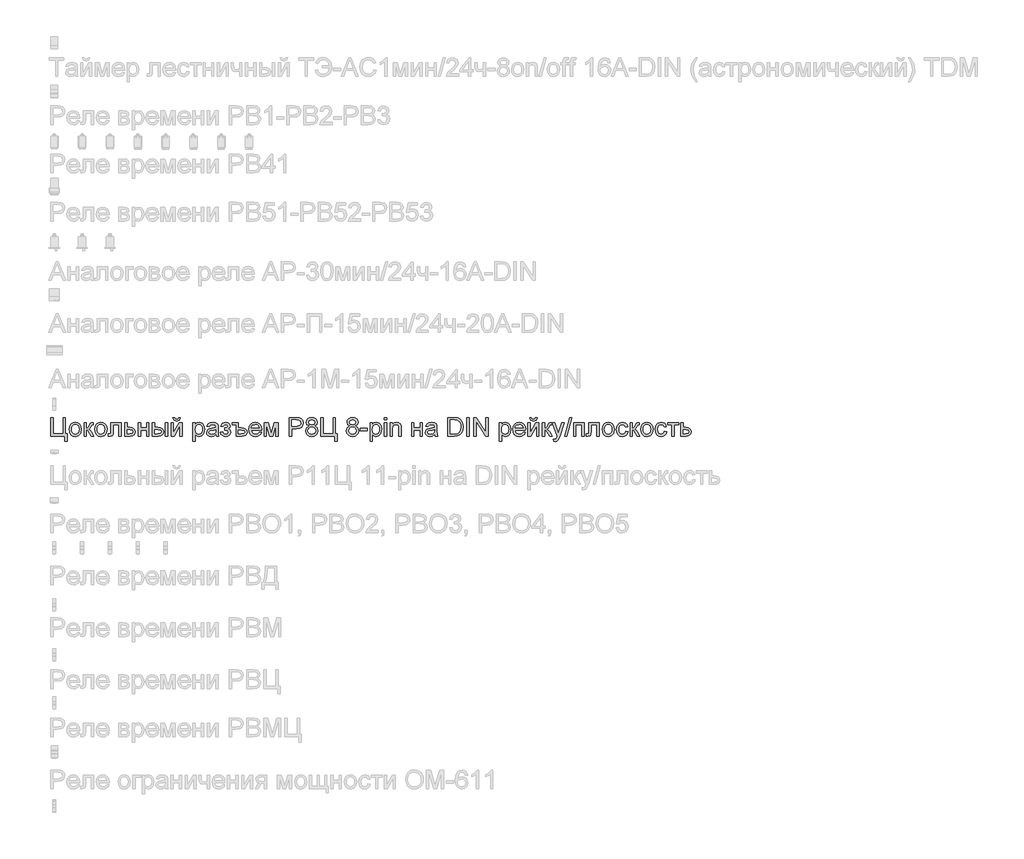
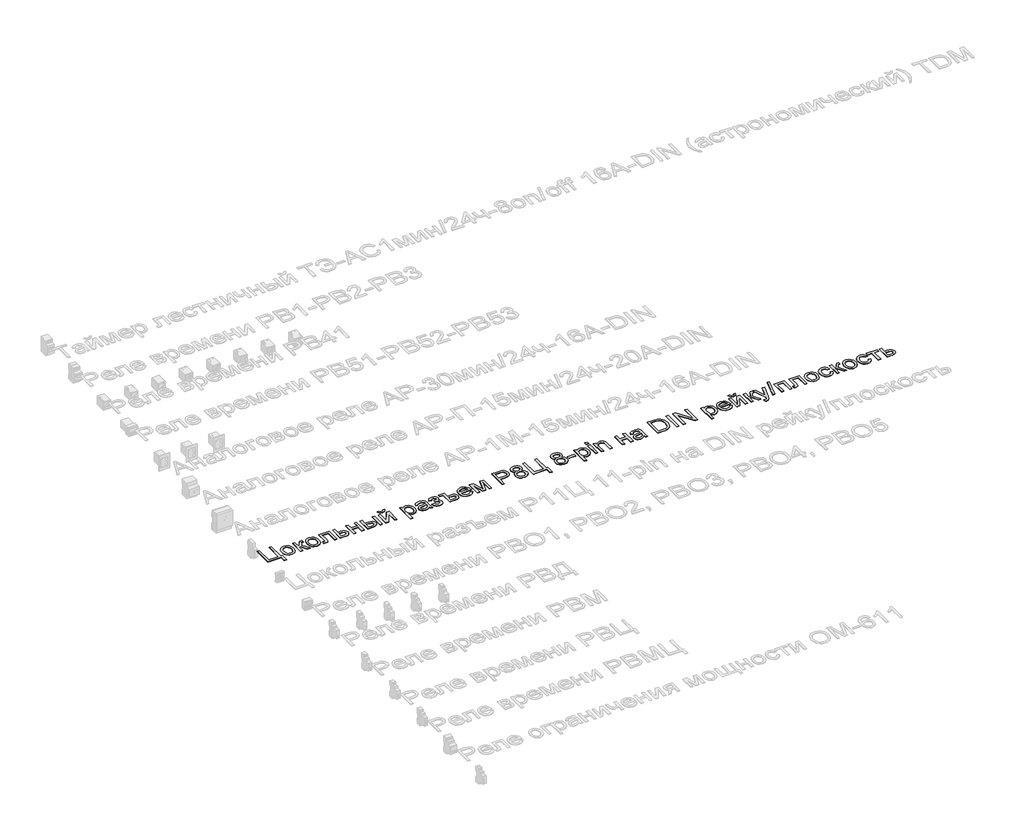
# One storey, part 26 of 34: 1 proxy.
"""IFC4 building model written with IfcOpenShell, lengths in millimetres."""

from ifc_helpers import new_model, si_unit, frame, origin, place, context, project, spatial, polyline, outline, extrude, element, save

model = new_model("IFC4")

# Units and contexts
model_context = context("Model", 3, world=origin())
ifc_project = project(units=[si_unit("LENGTHUNIT", "METRE", prefix="MILLI")], contexts=[model_context])

# Site, building, storey
site = spatial("IfcSite", under=ifc_project)
building = spatial("IfcBuilding", under=site)
storey = spatial("IfcBuildingStorey", under=building, Name="Этаж 01", Elevation=0.0)

# Proxy
placement = place(None, origin())
element("IfcBuildingElementProxy", 1, Name="Надпись на модели 1", ObjectType="Надпись на модели 1", at=placement, inside=storey, context=model_context, shape_type="SweptSolid", body=[
    extrude(outline(polyline([(-19039.0125911, 15216.6915941), (-19026.4555523, 15216.6915941), (-19026.4555523, 15128.7923228), (-18973.0881375, 15128.7923228), (-18973.0881375, 15216.6915941), (-18960.5310988, 15216.6915941), (-18960.5310988, 15128.7923228), (-18951.1133197, 15128.7923228), (-18951.1133197, 15087.9819468), (-18963.6703585, 15087.9819468), (-18963.6703585, 15116.235284), (-19039.0125911, 15116.235284), (-19039.0125911, 15216.6915941)])), frame((0.0, 0.0, 40.0), z_axis=(0.0, 0.0, 1.0), x_axis=(1.0, 0.0, 0.0)), (0.0, 0.0, 1.0), 2.0),
    extrude(outline(polyline([(-18940.1259108, 15153.1215854), (-18937.4097154, 15170.9086798), (-18929.2611292, 15183.4105363), (-18919.1934252, 15189.5357715), (-18907.1391585, 15191.5775166), (-18893.9475233, 15189.0912475), (-18883.4107699, 15181.63244), (-18876.5037854, 15169.7897054), (-18874.2014572, 15154.151655), (-18878.2726847, 15131.8089551), (-18890.1307476, 15119.1660772), (-18907.1391585, 15114.6656541), (-18920.4902093, 15117.1427262), (-18931.0147, 15124.5739426), (-18937.8481081, 15136.6649975), (-18940.1259108, 15153.1215854)]), holes=[polyline([(-18927.568872, 15153.1461108), (-18926.1157381, 15141.7816229), (-18921.7563365, 15133.6851533), (-18915.1957742, 15128.838308), (-18907.1391585, 15127.2226929), (-18899.119331, 15128.8475051), (-18892.5710315, 15133.7219415), (-18888.2116299, 15141.92571), (-18886.758496, 15153.5385183), (-18888.2208269, 15164.5719125), (-18892.6078197, 15172.5580175), (-18899.1653163, 15177.4048627), (-18907.1391585, 15179.0204778), (-18915.1957742, 15177.4109941), (-18921.7563365, 15172.5825429), (-18926.1157381, 15164.5044674), (-18927.568872, 15153.1461108)])]), frame((0.0, 0.0, 40.0), z_axis=(0.0, 0.0, 1.0), x_axis=(1.0, 0.0, 0.0)), (0.0, 0.0, 1.0), 2.0),
    extrude(outline(polyline([(-18860.0747886, 15190.0078868), (-18847.5177499, 15190.0078868), (-18847.5177499, 15158.6152898), (-18839.1055149, 15160.8716327), (-18832.2138589, 15174.0172827), (-18826.4871625, 15185.3603109), (-18821.4349164, 15189.0513936), (-18812.2501293, 15190.0078868), (-18809.8466335, 15190.0078868), (-18809.8466335, 15177.3772716), (-18813.2311479, 15177.450848), (-18819.3625145, 15176.1264728), (-18823.6789966, 15167.8613906), (-18828.7435054, 15158.9218582), (-18835.8436279, 15154.5440624), (-18827.9219022, 15149.6573633), (-18820.1473294, 15139.3627988), (-18806.7073739, 15116.235284), (-18820.9811953, 15116.235284), (-18834.1513707, 15138.8722894), (-18840.7732466, 15148.449484), (-18847.5177499, 15150.7671406), (-18847.5177499, 15116.235284), (-18860.0747886, 15116.235284), (-18860.0747886, 15190.0078868)])), frame((0.0, 0.0, 40.0), z_axis=(0.0, 0.0, 1.0), x_axis=(1.0, 0.0, 0.0)), (0.0, 0.0, 1.0), 2.0),
    extrude(outline(polyline([(-18801.9984843, 15153.1215854), (-18799.2822889, 15170.9086798), (-18791.1337027, 15183.4105363), (-18781.0659988, 15189.5357715), (-18769.0117321, 15191.5775166), (-18755.8200969, 15189.0912475), (-18745.2833434, 15181.63244), (-18738.3763589, 15169.7897054), (-18736.0740308, 15154.151655), (-18740.1452582, 15131.8089551), (-18752.0033212, 15119.1660772), (-18769.0117321, 15114.6656541), (-18782.3627828, 15117.1427262), (-18792.8872736, 15124.5739426), (-18799.7206816, 15136.6649975), (-18801.9984843, 15153.1215854)]), holes=[polyline([(-18789.4414455, 15153.1461108), (-18787.9883117, 15141.7816229), (-18783.62891, 15133.6851533), (-18777.0683478, 15128.838308), (-18769.0117321, 15127.2226929), (-18760.9919046, 15128.8475051), (-18754.4436051, 15133.7219415), (-18750.0842034, 15141.92571), (-18748.6310696, 15153.5385183), (-18750.0934005, 15164.5719125), (-18754.4803933, 15172.5580175), (-18761.0378898, 15177.4048627), (-18769.0117321, 15179.0204778), (-18777.0683478, 15177.4109941), (-18783.62891, 15172.5825429), (-18787.9883117, 15164.5044674), (-18789.4414455, 15153.1461108)])]), frame((0.0, 0.0, 40.0), z_axis=(0.0, 0.0, 1.0), x_axis=(1.0, 0.0, 0.0)), (0.0, 0.0, 1.0), 2.0),
    extrude(outline(polyline([(-18715.6688428, 15190.0078868), (-18659.1621683, 15190.0078868), (-18659.1621683, 15116.3088604), (-18671.7192071, 15116.3088604), (-18671.7192071, 15177.450848), (-18703.111804, 15177.450848), (-18703.111804, 15142.2568038), (-18703.9579326, 15126.0209451), (-18708.6055085, 15119.1660772), (-18719.5929174, 15116.235284), (-18729.7955114, 15116.8729461), (-18729.7955114, 15128.7923228), (-18724.1791796, 15128.7923228), (-18718.5015341, 15129.564875), (-18716.2329285, 15132.0174216), (-18715.6688428, 15142.9680423), (-18715.6688428, 15190.0078868)])), frame((0.0, 0.0, 40.0), z_axis=(0.0, 0.0, 1.0), x_axis=(1.0, 0.0, 0.0)), (0.0, 0.0, 1.0), 2.0),
    extrude(outline(polyline([(-18640.3266102, 15190.0078868), (-18627.7695714, 15190.0078868), (-18627.7695714, 15163.3241794), (-18613.2995463, 15163.3241794), (-18600.7547702, 15161.7514838), (-18591.4718812, 15157.0333973), (-18585.7329221, 15149.5500643), (-18583.8199357, 15139.6816298), (-18585.4478135, 15130.6961121), (-18590.331447, 15123.1146773), (-18598.7957986, 15117.9551323), (-18611.1658307, 15116.235284), (-18640.3266102, 15116.235284), (-18640.3266102, 15190.0078868)]), holes=[polyline([(-18627.7695714, 15128.7923228), (-18616.0463985, 15128.7923228), (-18600.901923, 15131.4288104), (-18596.3769745, 15139.6571044), (-18599.7247006, 15147.3826263), (-18614.550345, 15150.7671406), (-18627.7695714, 15150.7671406), (-18627.7695714, 15128.7923228)])]), frame((0.0, 0.0, 40.0), z_axis=(0.0, 0.0, 1.0), x_axis=(1.0, 0.0, 0.0)), (0.0, 0.0, 1.0), 2.0),
    extrude(outline(polyline([(-18568.1236373, 15190.0078868), (-18555.5665985, 15190.0078868), (-18555.5665985, 15161.7545495), (-18522.6043717, 15161.7545495), (-18522.6043717, 15190.0078868), (-18510.0473329, 15190.0078868), (-18510.0473329, 15116.235284), (-18522.6043717, 15116.235284), (-18522.6043717, 15149.1975108), (-18555.5665985, 15149.1975108), (-18555.5665985, 15116.235284), (-18568.1236373, 15116.235284), (-18568.1236373, 15190.0078868)])), frame((0.0, 0.0, 40.0), z_axis=(0.0, 0.0, 1.0), x_axis=(1.0, 0.0, 0.0)), (0.0, 0.0, 1.0), 2.0),
    extrude(outline(polyline([(-18491.2117748, 15190.0078868), (-18478.654736, 15190.0078868), (-18478.654736, 15163.3241794), (-18463.1301158, 15163.3241794), (-18449.7116201, 15161.7514838), (-18439.7696091, 15157.0333973), (-18433.6167828, 15149.5500643), (-18431.5658406, 15139.6816298), (-18433.285689, 15130.6961121), (-18438.445234, 15123.1146773), (-18447.3817008, 15117.9551323), (-18460.4323145, 15116.235284), (-18491.2117748, 15116.235284), (-18491.2117748, 15190.0078868)]), holes=[polyline([(-18478.654736, 15128.7923228), (-18465.7543407, 15128.7923228), (-18449.1015491, 15131.4288104), (-18444.1228794, 15139.6571044), (-18447.8139621, 15147.3826263), (-18464.1111345, 15150.7671406), (-18478.654736, 15150.7671406), (-18478.654736, 15128.7923228)])]), frame((0.0, 0.0, 40.0), z_axis=(0.0, 0.0, 1.0), x_axis=(1.0, 0.0, 0.0)), (0.0, 0.0, 1.0), 2.0),
    extrude(outline(polyline([(-18422.1480616, 15190.0078868), (-18409.5910228, 15190.0078868), (-18409.5910228, 15116.235284), (-18422.1480616, 15116.235284), (-18422.1480616, 15190.0078868)])), frame((0.0, 0.0, 40.0), z_axis=(0.0, 0.0, 1.0), x_axis=(1.0, 0.0, 0.0)), (0.0, 0.0, 1.0), 2.0),
    extrude(outline(polyline([(-18349.9450886, 15216.6915941), (-18340.5273096, 15216.6915941), (-18346.621888, 15202.7243411), (-18360.1476826, 15197.856036), (-18374.7893861, 15202.6875529), (-18381.3376856, 15216.6915941), (-18371.9199065, 15216.6915941), (-18368.3882393, 15209.6159971), (-18361.2758541, 15207.2738151), (-18353.4767558, 15209.5424207), (-18349.9450886, 15216.6915941)])), frame((0.0, 0.0, 40.0), z_axis=(0.0, 0.0, 1.0), x_axis=(1.0, 0.0, 0.0)), (0.0, 0.0, 1.0), 2.0),
    extrude(outline(polyline([(-18390.7554646, 15190.0078868), (-18378.1984259, 15190.0078868), (-18378.1984259, 15133.746467), (-18347.3453892, 15190.0078868), (-18331.1095305, 15190.0078868), (-18331.1095305, 15116.235284), (-18343.6665693, 15116.235284), (-18343.6665693, 15172.1533473), (-18374.3234022, 15116.235284), (-18390.7554646, 15116.235284), (-18390.7554646, 15190.0078868)])), frame((0.0, 0.0, 40.0), z_axis=(0.0, 0.0, 1.0), x_axis=(1.0, 0.0, 0.0)), (0.0, 0.0, 1.0), 2.0),
    extrude(outline(polyline([(-18273.0332262, 15087.9819468), (-18273.0332262, 15190.0078868), (-18260.4761874, 15190.0078868), (-18260.4761874, 15177.6961027), (-18251.7941723, 15188.1071631), (-18240.0709994, 15191.5775166), (-18224.1539718, 15186.7214743), (-18213.755174, 15173.036264), (-18210.2480323, 15153.6856711), (-18214.2088952, 15133.3417968), (-18225.7113389, 15119.4849083), (-18241.5915783, 15114.6656541), (-18252.5176736, 15117.890753), (-18260.4761874, 15126.0454705), (-18260.4761874, 15087.9819468), (-18273.0332262, 15087.9819468)]), holes=[polyline([(-18260.4761874, 15152.5329742), (-18259.1180897, 15141.2757851), (-18255.0437966, 15133.4031104), (-18249.0319917, 15128.7677973), (-18241.8613585, 15127.2226929), (-18234.5742293, 15128.8229796), (-18228.4091402, 15133.6238396), (-18224.2060884, 15141.7846886), (-18222.8050711, 15153.4649419), (-18224.1723659, 15164.6608173), (-18228.2742501, 15172.6438566), (-18234.276858, 15177.4263225), (-18241.3463237, 15179.0204778), (-18248.4433805, 15177.325155), (-18254.6759146, 15172.2391864), (-18259.0261192, 15163.9219876), (-18260.4761874, 15152.5329742)])]), frame((0.0, 0.0, 40.0), z_axis=(0.0, 0.0, 1.0), x_axis=(1.0, 0.0, 0.0)), (0.0, 0.0, 1.0), 2.0),
    extrude(outline(polyline([(-18149.0324683, 15125.6530631), (-18161.2093624, 15117.1427262), (-18174.6615807, 15114.6656541), (-18185.1554146, 15116.1555762), (-18192.8962649, 15120.6253425), (-18197.6695338, 15127.4127653), (-18199.2606234, 15135.8556571), (-18196.8571277, 15145.7884709), (-18190.5418201, 15152.998958), (-18181.7494405, 15157.1192364), (-18170.8846589, 15159.0076973), (-18149.1060447, 15163.3241794), (-18149.0324683, 15166.1200825), (-18152.4905591, 15175.3907088), (-18166.3719731, 15179.0204778), (-18179.0761646, 15176.6047194), (-18185.1339548, 15168.0330689), (-18197.6909936, 15169.6026988), (-18192.2586028, 15181.8654319), (-18181.3202448, 15189.0513936), (-18164.7532923, 15191.5775166), (-18149.5352404, 15189.3456992), (-18140.9390645, 15183.7416301), (-18137.0885662, 15175.2190306), (-18136.4754296, 15164.2316216), (-18136.4754296, 15148.6088996), (-18135.8377675, 15126.7934973), (-18133.3361699, 15116.235284), (-18145.8932087, 15116.235284), (-18149.0324683, 15125.6530631)]), holes=[polyline([(-18149.0324683, 15150.7671406), (-18169.2905035, 15146.9166424), (-18180.0939715, 15144.8810287), (-18184.986802, 15141.5700907), (-18186.7035847, 15136.7385739), (-18182.963451, 15129.9450197), (-18171.9883048, 15127.2226929), (-18159.2841133, 15130.2270625), (-18151.0926075, 15137.4988633), (-18149.1060447, 15147.210948), (-18149.0324683, 15150.7671406)])]), frame((0.0, 0.0, 40.0), z_axis=(0.0, 0.0, 1.0), x_axis=(1.0, 0.0, 0.0)), (0.0, 0.0, 1.0), 2.0),
    extrude(outline(polyline([(-18101.943573, 15149.1975108), (-18101.943573, 15161.7545495), (-18092.0352846, 15162.2450589), (-18087.0320894, 15164.857021), (-18084.6776447, 15170.3139373), (-18087.8291671, 15176.6537703), (-18095.9593592, 15179.0204778), (-18104.3593314, 15176.6660331), (-18109.7917222, 15169.6026988), (-18123.9183908, 15171.1723286), (-18114.4760863, 15186.4762196), (-18097.2346834, 15191.5775166), (-18086.7377838, 15190.0232152), (-18078.7915327, 15185.3603109), (-18073.7883376, 15178.5391656), (-18072.1206059, 15170.510141), (-18074.4934448, 15162.7110427), (-18081.6119614, 15156.677778), (-18073.310091, 15148.8541542), (-18070.550976, 15137.5969652), (-18072.3014812, 15128.3539301), (-18077.5529967, 15121.0300127), (-18085.9499032, 15116.2567438), (-18097.1365816, 15114.6656541), (-18108.0780052, 15116.1371821), (-18116.4503863, 15120.5517661), (-18122.2537248, 15127.909406), (-18125.4880207, 15138.2101018), (-18111.361352, 15139.7797317), (-18105.6959693, 15130.5091054), (-18095.9348337, 15127.2226929), (-18086.7623093, 15130.3742153), (-18083.1080148, 15138.430831), (-18085.3766204, 15145.0281815), (-18090.2081373, 15148.5598486), (-18099.4910263, 15149.2710872), (-18101.943573, 15149.1975108)])), frame((0.0, 0.0, 40.0), z_axis=(0.0, 0.0, 1.0), x_axis=(1.0, 0.0, 0.0)), (0.0, 0.0, 1.0), 2.0),
    extrude(outline(polyline([(-18061.133197, 15190.0078868), (-18028.1709702, 15190.0078868), (-18028.1709702, 15161.7545495), (-18012.5972991, 15161.7545495), (-17998.3112149, 15160.0929492), (-17988.562342, 15155.1081482), (-17982.9521416, 15147.71372), (-17981.0820748, 15138.8232385), (-17982.9030907, 15129.7457503), (-17988.3661383, 15122.5260661), (-17997.3853786, 15117.8079795), (-18009.8749723, 15116.235284), (-18040.728009, 15116.235284), (-18040.728009, 15177.450848), (-18061.133197, 15177.450848), (-18061.133197, 15190.0078868)]), holes=[polyline([(-18028.1709702, 15128.7923228), (-18015.2460494, 15128.7923228), (-17998.5564696, 15131.2080812), (-17993.6391136, 15138.9703913), (-17997.8452311, 15146.5242349), (-18013.6028432, 15149.1975108), (-18028.1709702, 15149.1975108), (-18028.1709702, 15128.7923228)])]), frame((0.0, 0.0, 40.0), z_axis=(0.0, 0.0, 1.0), x_axis=(1.0, 0.0, 0.0)), (0.0, 0.0, 1.0), 2.0),
    extrude(outline(polyline([(-17915.3047741, 15138.2101018), (-17902.99299, 15136.640472), (-17907.4290337, 15127.3637143), (-17914.5076964, 15120.4291387), (-17924.0695626, 15116.1065253), (-17935.9552167, 15114.6656541), (-17950.6888906, 15117.1519233), (-17962.0257875, 15124.6107308), (-17969.2546687, 15136.5576985), (-17971.6642957, 15152.5084487), (-17969.2301432, 15168.9956935), (-17961.9276856, 15181.3258717), (-17950.7440729, 15189.0146054), (-17936.6664553, 15191.5775166), (-17923.0272303, 15189.0207367), (-17912.1287262, 15181.3503971), (-17904.9826184, 15169.0447444), (-17902.6005825, 15152.5820251), (-17902.6741589, 15149.1975108), (-17959.107257, 15149.1975108), (-17956.9336875, 15139.7981258), (-17951.8845071, 15132.8880756), (-17944.5973779, 15128.6390386), (-17935.7099621, 15127.2226929), (-17923.398178, 15129.8469178), (-17915.3047741, 15138.2101018)]), holes=[polyline([(-17959.107257, 15161.7545495), (-17915.1576213, 15161.7545495), (-17920.1853419, 15173.1343659), (-17927.5061936, 15177.5489499), (-17936.7155062, 15179.0204778), (-17952.1788127, 15174.323851), (-17957.0440521, 15168.8332123), (-17959.107257, 15161.7545495)])]), frame((0.0, 0.0, 40.0), z_axis=(0.0, 0.0, 1.0), x_axis=(1.0, 0.0, 0.0)), (0.0, 0.0, 1.0), 2.0),
    extrude(outline(polyline([(-17890.0435437, 15190.0078868), (-17868.4366079, 15190.0078868), (-17851.7838162, 15130.9505638), (-17833.8311749, 15190.0078868), (-17813.1316813, 15190.0078868), (-17813.1316813, 15116.235284), (-17825.6887201, 15116.235284), (-17825.6887201, 15175.6359635), (-17843.7394633, 15116.235284), (-17860.2205767, 15116.235284), (-17877.486505, 15178.4809176), (-17877.486505, 15116.235284), (-17890.0435437, 15116.235284), (-17890.0435437, 15190.0078868)])), frame((0.0, 0.0, 40.0), z_axis=(0.0, 0.0, 1.0), x_axis=(1.0, 0.0, 0.0)), (0.0, 0.0, 1.0), 2.0),
    extrude(outline(polyline([(-17753.4857471, 15116.235284), (-17753.4857471, 15216.6915941), (-17716.2560892, 15216.6915941), (-17701.2465038, 15215.735101), (-17689.0450843, 15211.0384742), (-17681.1356214, 15201.3263895), (-17678.1435145, 15187.6289165), (-17680.1637998, 15175.7892476), (-17686.2246557, 15165.9238788), (-17697.5584868, 15159.2652147), (-17715.3976979, 15157.04566), (-17740.9287084, 15157.04566), (-17740.9287084, 15116.235284), (-17753.4857471, 15116.235284)]), holes=[polyline([(-17740.9287084, 15169.6026988), (-17714.6619339, 15169.6026988), (-17696.1697323, 15174.2134864), (-17692.067848, 15179.7623732), (-17690.7005533, 15187.1874581), (-17693.9256521, 15197.5862559), (-17702.3992007, 15203.2761641), (-17714.9562395, 15204.1345554), (-17740.9287084, 15204.1345554), (-17740.9287084, 15169.6026988)])]), frame((0.0, 0.0, 40.0), z_axis=(0.0, 0.0, 1.0), x_axis=(1.0, 0.0, 0.0)), (0.0, 0.0, 1.0), 2.0),
    extrude(outline(polyline([(-17647.2904779, 15171.5647361), (-17658.7316079, 15179.3638344), (-17662.4472161, 15191.5039402), (-17660.4238651, 15201.3202581), (-17654.3538122, 15209.4320561), (-17644.917639, 15214.8767096), (-17632.7959272, 15216.6915941), (-17620.6006391, 15214.8337901), (-17611.0418386, 15209.2603778), (-17604.8614211, 15201.0198211), (-17602.8012819, 15191.1605837), (-17606.4678391, 15179.3270462), (-17617.5901381, 15171.5647361), (-17604.2360217, 15161.7177613), (-17599.6620222, 15145.4696399), (-17601.9306279, 15133.4644241), (-17608.7364448, 15123.543873), (-17619.2456071, 15116.8852089), (-17632.624249, 15114.6656541), (-17646.0028909, 15116.8944059), (-17656.5120532, 15123.5806612), (-17663.3178701, 15133.5962485), (-17665.5864758, 15145.8129964), (-17660.8285353, 15162.4412626), (-17647.2904779, 15171.5647361)]), holes=[polyline([(-17649.8901773, 15191.1360582), (-17645.4388051, 15181.2768207), (-17632.4770962, 15177.450848), (-17619.7729046, 15181.2522953), (-17615.3583207, 15190.5719725), (-17619.9200574, 15200.2227435), (-17632.624249, 15204.1345554), (-17645.3652287, 15200.3085826), (-17649.8901773, 15191.1360582)]), polyline([(-17653.029437, 15146.2544548), (-17650.9325096, 15136.7998875), (-17643.513556, 15129.7242905), (-17632.5261471, 15127.2226929), (-17623.9790221, 15128.537871), (-17617.5656126, 15132.4834054), (-17612.219061, 15145.8620473), (-17617.7372909, 15159.4982066), (-17624.2978532, 15163.5449086), (-17632.94308, 15164.8938092), (-17641.3706434, 15163.5633027), (-17647.7196735, 15159.571783), (-17653.029437, 15146.2544548)])]), frame((0.0, 0.0, 40.0), z_axis=(0.0, 0.0, 1.0), x_axis=(1.0, 0.0, 0.0)), (0.0, 0.0, 1.0), 2.0),
    extrude(outline(polyline([(-17583.9657238, 15216.6915941), (-17571.408685, 15216.6915941), (-17571.408685, 15128.7923228), (-17518.0412702, 15128.7923228), (-17518.0412702, 15216.6915941), (-17505.4842314, 15216.6915941), (-17505.4842314, 15128.7923228), (-17496.0664524, 15128.7923228), (-17496.0664524, 15087.9819468), (-17508.6234911, 15087.9819468), (-17508.6234911, 15116.235284), (-17583.9657238, 15116.235284), (-17583.9657238, 15216.6915941)])), frame((0.0, 0.0, 40.0), z_axis=(0.0, 0.0, 1.0), x_axis=(1.0, 0.0, 0.0)), (0.0, 0.0, 1.0), 2.0),
    extrude(outline(polyline([(-17427.5422994, 15171.5647361), (-17438.9834295, 15179.3638344), (-17442.6990376, 15191.5039402), (-17440.6756866, 15201.3202581), (-17434.6056337, 15209.4320561), (-17425.1694605, 15214.8767096), (-17413.0477488, 15216.6915941), (-17400.8524607, 15214.8337901), (-17391.2936601, 15209.2603778), (-17385.1132426, 15201.0198211), (-17383.0531035, 15191.1605837), (-17386.7196607, 15179.3270462), (-17397.8419597, 15171.5647361), (-17384.4878432, 15161.7177613), (-17379.9138438, 15145.4696399), (-17382.1824494, 15133.4644241), (-17388.9882663, 15123.543873), (-17399.4974286, 15116.8852089), (-17412.8760705, 15114.6656541), (-17426.2547124, 15116.8944059), (-17436.7638748, 15123.5806612), (-17443.5696917, 15133.5962485), (-17445.8382973, 15145.8129964), (-17441.0803568, 15162.4412626), (-17427.5422994, 15171.5647361)]), holes=[polyline([(-17430.1419988, 15191.1360582), (-17425.6906267, 15181.2768207), (-17412.7289177, 15177.450848), (-17400.0247262, 15181.2522953), (-17395.6101422, 15190.5719725), (-17400.171879, 15200.2227435), (-17412.8760705, 15204.1345554), (-17425.6170503, 15200.3085826), (-17430.1419988, 15191.1360582)]), polyline([(-17433.2812585, 15146.2544548), (-17431.1843312, 15136.7998875), (-17423.7653776, 15129.7242905), (-17412.7779687, 15127.2226929), (-17404.2308436, 15128.537871), (-17397.8174342, 15132.4834054), (-17392.4708825, 15145.8620473), (-17397.9891125, 15159.4982066), (-17404.5496747, 15163.5449086), (-17413.1949016, 15164.8938092), (-17421.622465, 15163.5633027), (-17427.9714951, 15159.571783), (-17433.2812585, 15146.2544548)])]), frame((0.0, 0.0, 40.0), z_axis=(0.0, 0.0, 1.0), x_axis=(1.0, 0.0, 0.0)), (0.0, 0.0, 1.0), 2.0),
    extrude(outline(polyline([(-17372.0656945, 15146.0582511), (-17372.0656945, 15158.6152898), (-17332.8249484, 15158.6152898), (-17332.8249484, 15146.0582511), (-17372.0656945, 15146.0582511)])), frame((0.0, 0.0, 40.0), z_axis=(0.0, 0.0, 1.0), x_axis=(1.0, 0.0, 0.0)), (0.0, 0.0, 1.0), 2.0),
    extrude(outline(polyline([(-17318.6982798, 15087.9819468), (-17318.6982798, 15190.0078868), (-17306.141241, 15190.0078868), (-17306.141241, 15177.6961027), (-17297.4592259, 15188.1071631), (-17285.736053, 15191.5775166), (-17269.8190253, 15186.7214743), (-17259.4202276, 15173.036264), (-17255.9130859, 15153.6856711), (-17259.8739487, 15133.3417968), (-17271.3763925, 15119.4849083), (-17287.2566319, 15114.6656541), (-17298.1827272, 15117.890753), (-17306.141241, 15126.0454705), (-17306.141241, 15087.9819468), (-17318.6982798, 15087.9819468)]), holes=[polyline([(-17306.141241, 15152.5329742), (-17304.7831433, 15141.2757851), (-17300.7088502, 15133.4031104), (-17294.6970453, 15128.7677973), (-17287.526412, 15127.2226929), (-17280.2392829, 15128.8229796), (-17274.0741938, 15133.6238396), (-17269.871142, 15141.7846886), (-17268.4701247, 15153.4649419), (-17269.8374194, 15164.6608173), (-17273.9393037, 15172.6438566), (-17279.9419116, 15177.4263225), (-17287.0113772, 15179.0204778), (-17294.1084341, 15177.325155), (-17300.3409682, 15172.2391864), (-17304.6911728, 15163.9219876), (-17306.141241, 15152.5329742)])]), frame((0.0, 0.0, 40.0), z_axis=(0.0, 0.0, 1.0), x_axis=(1.0, 0.0, 0.0)), (0.0, 0.0, 1.0), 2.0),
    extrude(outline(polyline([(-17241.7864173, 15204.1345554), (-17241.7864173, 15216.6915941), (-17229.2293785, 15216.6915941), (-17229.2293785, 15204.1345554), (-17241.7864173, 15204.1345554)])), frame((0.0, 0.0, 40.0), z_axis=(0.0, 0.0, 1.0), x_axis=(1.0, 0.0, 0.0)), (0.0, 0.0, 1.0), 2.0),
    extrude(outline(polyline([(-17241.7864173, 15116.235284), (-17241.7864173, 15190.0078868), (-17229.2293785, 15190.0078868), (-17229.2293785, 15116.235284), (-17241.7864173, 15116.235284)])), frame((0.0, 0.0, 40.0), z_axis=(0.0, 0.0, 1.0), x_axis=(1.0, 0.0, 0.0)), (0.0, 0.0, 1.0), 2.0),
    extrude(outline(polyline([(-17210.3938204, 15116.235284), (-17210.3938204, 15190.0078868), (-17197.8367816, 15190.0078868), (-17197.8367816, 15179.7071909), (-17188.2350615, 15188.6099352), (-17175.1261998, 15191.5775166), (-17163.2681368, 15189.1862836), (-17155.1747329, 15182.9077643), (-17151.4100738, 15173.6739262), (-17150.7478862, 15161.5338203), (-17150.7478862, 15116.235284), (-17163.304925, 15116.235284), (-17163.304925, 15159.8415632), (-17164.7519275, 15170.9515994), (-17169.8654872, 15176.8254486), (-17178.4861887, 15179.0204778), (-17192.1100852, 15174.0908591), (-17196.4051075, 15166.947817), (-17197.8367816, 15155.3779283), (-17197.8367816, 15116.235284), (-17210.3938204, 15116.235284)])), frame((0.0, 0.0, 40.0), z_axis=(0.0, 0.0, 1.0), x_axis=(1.0, 0.0, 0.0)), (0.0, 0.0, 1.0), 2.0),
    extrude(outline(polyline([(-17094.2412118, 15190.0078868), (-17081.684173, 15190.0078868), (-17081.684173, 15161.7545495), (-17048.7219462, 15161.7545495), (-17048.7219462, 15190.0078868), (-17036.1649075, 15190.0078868), (-17036.1649075, 15116.235284), (-17048.7219462, 15116.235284), (-17048.7219462, 15149.1975108), (-17081.684173, 15149.1975108), (-17081.684173, 15116.235284), (-17094.2412118, 15116.235284), (-17094.2412118, 15190.0078868)])), frame((0.0, 0.0, 40.0), z_axis=(0.0, 0.0, 1.0), x_axis=(1.0, 0.0, 0.0)), (0.0, 0.0, 1.0), 2.0),
    extrude(outline(polyline([(-16970.2404539, 15125.6530631), (-16982.417348, 15117.1427262), (-16995.8695663, 15114.6656541), (-17006.3634002, 15116.1555762), (-17014.1042505, 15120.6253425), (-17018.8775194, 15127.4127653), (-17020.468609, 15135.8556571), (-17018.0651133, 15145.7884709), (-17011.7498057, 15152.998958), (-17002.957426, 15157.1192364), (-16992.0926444, 15159.0076973), (-16970.3140303, 15163.3241794), (-16970.2404539, 15166.1200825), (-16973.6985447, 15175.3907088), (-16987.5799586, 15179.0204778), (-17000.2841502, 15176.6047194), (-17006.3419404, 15168.0330689), (-17018.8989792, 15169.6026988), (-17013.4665884, 15181.8654319), (-17002.5282304, 15189.0513936), (-16985.9612779, 15191.5775166), (-16970.743226, 15189.3456992), (-16962.14705, 15183.7416301), (-16958.2965518, 15175.2190306), (-16957.6834152, 15164.2316216), (-16957.6834152, 15148.6088996), (-16957.045753, 15126.7934973), (-16954.5441555, 15116.235284), (-16967.1011942, 15116.235284), (-16970.2404539, 15125.6530631)]), holes=[polyline([(-16970.2404539, 15150.7671406), (-16990.4984891, 15146.9166424), (-17001.3019571, 15144.8810287), (-17006.1947876, 15141.5700907), (-17007.9115702, 15136.7385739), (-17004.1714366, 15129.9450197), (-16993.1962904, 15127.2226929), (-16980.4920989, 15130.2270625), (-16972.3005931, 15137.4988633), (-16970.3140303, 15147.210948), (-16970.2404539, 15150.7671406)])]), frame((0.0, 0.0, 40.0), z_axis=(0.0, 0.0, 1.0), x_axis=(1.0, 0.0, 0.0)), (0.0, 0.0, 1.0), 2.0),
    extrude(outline(polyline([(-16899.6071109, 15116.235284), (-16899.6071109, 15216.6915941), (-16864.9526269, 15216.6915941), (-16847.024511, 15215.2445916), (-16832.2601803, 15208.05863), (-16820.3653291, 15190.8908035), (-16816.416729, 15167.0029993), (-16819.0900048, 15146.7327014), (-16825.9571354, 15132.1032607), (-16835.1296598, 15122.99205), (-16847.1348756, 15117.9520666), (-16863.2848952, 15116.235284), (-16899.6071109, 15116.235284)]), holes=[polyline([(-16887.0500721, 15128.7923228), (-16864.8299996, 15128.7923228), (-16848.6677173, 15130.6072073), (-16839.34804, 15135.7330297), (-16831.7083573, 15148.2042294), (-16828.9737678, 15167.1992031), (-16830.3134714, 15180.8844133), (-16834.3325822, 15190.9889054), (-16847.3678675, 15202.1234671), (-16865.1733561, 15204.1345554), (-16887.0500721, 15204.1345554), (-16887.0500721, 15128.7923228)])]), frame((0.0, 0.0, 40.0), z_axis=(0.0, 0.0, 1.0), x_axis=(1.0, 0.0, 0.0)), (0.0, 0.0, 1.0), 2.0),
    extrude(outline(polyline([(-16797.5811709, 15116.235284), (-16797.5811709, 15216.6915941), (-16785.0241321, 15216.6915941), (-16785.0241321, 15116.235284), (-16797.5811709, 15116.235284)])), frame((0.0, 0.0, 40.0), z_axis=(0.0, 0.0, 1.0), x_axis=(1.0, 0.0, 0.0)), (0.0, 0.0, 1.0), 2.0),
    extrude(outline(polyline([(-16759.9100546, 15116.235284), (-16759.9100546, 15216.6915941), (-16746.470099, 15216.6915941), (-16693.985601, 15137.1064559), (-16693.985601, 15216.6915941), (-16681.4285623, 15216.6915941), (-16681.4285623, 15116.235284), (-16694.8685178, 15116.235284), (-16747.3530158, 15195.8449477), (-16747.3530158, 15116.235284), (-16759.9100546, 15116.235284)])), frame((0.0, 0.0, 40.0), z_axis=(0.0, 0.0, 1.0), x_axis=(1.0, 0.0, 0.0)), (0.0, 0.0, 1.0), 2.0),
    extrude(outline(polyline([(-16621.7826281, 15087.9819468), (-16621.7826281, 15190.0078868), (-16609.2255893, 15190.0078868), (-16609.2255893, 15177.6961027), (-16600.5435742, 15188.1071631), (-16588.8204013, 15191.5775166), (-16572.9033737, 15186.7214743), (-16562.5045759, 15173.036264), (-16558.9974343, 15153.6856711), (-16562.9582971, 15133.3417968), (-16574.4607408, 15119.4849083), (-16590.3409802, 15114.6656541), (-16601.2670755, 15117.890753), (-16609.2255893, 15126.0454705), (-16609.2255893, 15087.9819468), (-16621.7826281, 15087.9819468)]), holes=[polyline([(-16609.2255893, 15152.5329742), (-16607.8674916, 15141.2757851), (-16603.7931985, 15133.4031104), (-16597.7813936, 15128.7677973), (-16590.6107604, 15127.2226929), (-16583.3236312, 15128.8229796), (-16577.1585421, 15133.6238396), (-16572.9554903, 15141.7846886), (-16571.554473, 15153.4649419), (-16572.9217678, 15164.6608173), (-16577.023652, 15172.6438566), (-16583.0262599, 15177.4263225), (-16590.0957256, 15179.0204778), (-16597.1927824, 15177.325155), (-16603.4253165, 15172.2391864), (-16607.7755211, 15163.9219876), (-16609.2255893, 15152.5329742)])]), frame((0.0, 0.0, 40.0), z_axis=(0.0, 0.0, 1.0), x_axis=(1.0, 0.0, 0.0)), (0.0, 0.0, 1.0), 2.0),
    extrude(outline(polyline([(-16493.2201335, 15138.2101018), (-16480.9083494, 15136.640472), (-16485.3443931, 15127.3637143), (-16492.4230559, 15120.4291387), (-16501.9849221, 15116.1065253), (-16513.8705762, 15114.6656541), (-16528.6042501, 15117.1519233), (-16539.9411469, 15124.6107308), (-16547.1700281, 15136.5576985), (-16549.5796552, 15152.5084487), (-16547.1455026, 15168.9956935), (-16539.843045, 15181.3258717), (-16528.6594324, 15189.0146054), (-16514.5818147, 15191.5775166), (-16500.9425897, 15189.0207367), (-16490.0440856, 15181.3503971), (-16482.8979779, 15169.0447444), (-16480.515942, 15152.5820251), (-16480.5895184, 15149.1975108), (-16537.0226164, 15149.1975108), (-16534.849047, 15139.7981258), (-16529.7998666, 15132.8880756), (-16522.5127374, 15128.6390386), (-16513.6253215, 15127.2226929), (-16501.3135374, 15129.8469178), (-16493.2201335, 15138.2101018)]), holes=[polyline([(-16537.0226164, 15161.7545495), (-16493.0729807, 15161.7545495), (-16498.1007013, 15173.1343659), (-16505.421553, 15177.5489499), (-16514.6308656, 15179.0204778), (-16530.0941722, 15174.323851), (-16534.9594116, 15168.8332123), (-16537.0226164, 15161.7545495)])]), frame((0.0, 0.0, 40.0), z_axis=(0.0, 0.0, 1.0), x_axis=(1.0, 0.0, 0.0)), (0.0, 0.0, 1.0), 2.0),
    extrude(outline(polyline([(-16467.9589032, 15190.0078868), (-16455.4018644, 15190.0078868), (-16455.4018644, 15133.746467), (-16424.5488278, 15190.0078868), (-16408.312969, 15190.0078868), (-16408.312969, 15116.235284), (-16420.8700078, 15116.235284), (-16420.8700078, 15172.1533473), (-16451.5268407, 15116.235284), (-16467.9589032, 15116.235284), (-16467.9589032, 15190.0078868)])), frame((0.0, 0.0, 40.0), z_axis=(0.0, 0.0, 1.0), x_axis=(1.0, 0.0, 0.0)), (0.0, 0.0, 1.0), 2.0),
    extrude(outline(polyline([(-16427.1485272, 15216.6915941), (-16417.7307481, 15216.6915941), (-16423.8253265, 15202.7243411), (-16437.3511212, 15197.856036), (-16451.9928246, 15202.6875529), (-16458.5411241, 15216.6915941), (-16449.123345, 15216.6915941), (-16445.5916779, 15209.6159971), (-16438.4792926, 15207.2738151), (-16430.6801943, 15209.5424207), (-16427.1485272, 15216.6915941)])), frame((0.0, 0.0, 40.0), z_axis=(0.0, 0.0, 1.0), x_axis=(1.0, 0.0, 0.0)), (0.0, 0.0, 1.0), 2.0),
    extrude(outline(polyline([(-16328.2618469, 15087.9819468), (-16329.8314767, 15100.0730017), (-16323.4548555, 15098.9693557), (-16317.4951672, 15100.3550445), (-16313.8408727, 15104.2178055), (-16310.4073074, 15113.4639063), (-16309.4262887, 15116.5050641), (-16336.1099961, 15190.0078868), (-16322.8662443, 15190.0078868), (-16308.7150502, 15149.050358), (-16303.7854315, 15132.6673464), (-16298.8558127, 15147.1373716), (-16284.3122112, 15190.0078868), (-16271.1665612, 15190.0078868), (-16296.8447245, 15114.4694504), (-16303.5156513, 15098.0864389), (-16310.7997148, 15089.2327455), (-16320.5853759, 15086.4123169), (-16328.2618469, 15087.9819468)])), frame((0.0, 0.0, 40.0), z_axis=(0.0, 0.0, 1.0), x_axis=(1.0, 0.0, 0.0)), (0.0, 0.0, 1.0), 2.0),
    extrude(outline(polyline([(-16389.4774109, 15190.0078868), (-16376.9203721, 15190.0078868), (-16376.9203721, 15158.6152898), (-16368.5081372, 15160.8716327), (-16361.6164811, 15174.0172827), (-16355.8897847, 15185.3603109), (-16350.8375387, 15189.0513936), (-16341.6527515, 15190.0078868), (-16339.2492558, 15190.0078868), (-16339.2492558, 15177.3772716), (-16342.6337702, 15177.450848), (-16348.7651367, 15176.1264728), (-16353.0816188, 15167.8613906), (-16358.1461276, 15158.9218582), (-16365.2462501, 15154.5440624), (-16357.3245245, 15149.6573633), (-16349.5499517, 15139.3627988), (-16336.1099961, 15116.235284), (-16350.3838175, 15116.235284), (-16363.553993, 15138.8722894), (-16370.1758689, 15148.449484), (-16376.9203721, 15150.7671406), (-16376.9203721, 15116.235284), (-16389.4774109, 15116.235284), (-16389.4774109, 15190.0078868)])), frame((0.0, 0.0, 40.0), z_axis=(0.0, 0.0, 1.0), x_axis=(1.0, 0.0, 0.0)), (0.0, 0.0, 1.0), 2.0),
    extrude(outline(polyline([(-16270.1855426, 15116.235284), (-16241.9322053, 15216.6915941), (-16230.6014399, 15216.6915941), (-16258.8547771, 15116.235284), (-16270.1855426, 15116.235284)])), frame((0.0, 0.0, 40.0), z_axis=(0.0, 0.0, 1.0), x_axis=(1.0, 0.0, 0.0)), (0.0, 0.0, 1.0), 2.0),
    extrude(outline(polyline([(-16221.5270174, 15190.0078868), (-16165.0203429, 15190.0078868), (-16165.0203429, 15116.235284), (-16177.5773817, 15116.235284), (-16177.5773817, 15177.450848), (-16208.9699786, 15177.450848), (-16208.9699786, 15116.235284), (-16221.5270174, 15116.235284), (-16221.5270174, 15190.0078868)])), frame((0.0, 0.0, 40.0), z_axis=(0.0, 0.0, 1.0), x_axis=(1.0, 0.0, 0.0)), (0.0, 0.0, 1.0), 2.0),
    extrude(outline(polyline([(-16139.9062654, 15190.0078868), (-16083.3995909, 15190.0078868), (-16083.3995909, 15116.3088604), (-16095.9566297, 15116.3088604), (-16095.9566297, 15177.450848), (-16127.3492266, 15177.450848), (-16127.3492266, 15142.2568038), (-16128.1953552, 15126.0209451), (-16132.842931, 15119.1660772), (-16143.83034, 15116.235284), (-16154.032934, 15116.8729461), (-16154.032934, 15128.7923228), (-16148.4166022, 15128.7923228), (-16142.7389567, 15129.564875), (-16140.4703511, 15132.0174216), (-16139.9062654, 15142.9680423), (-16139.9062654, 15190.0078868)])), frame((0.0, 0.0, 40.0), z_axis=(0.0, 0.0, 1.0), x_axis=(1.0, 0.0, 0.0)), (0.0, 0.0, 1.0), 2.0),
    extrude(outline(polyline([(-16067.7032924, 15153.1215854), (-16064.987097, 15170.9086798), (-16056.8385108, 15183.4105363), (-16046.7708069, 15189.5357715), (-16034.7165402, 15191.5775166), (-16021.524905, 15189.0912475), (-16010.9881515, 15181.63244), (-16004.0811671, 15169.7897054), (-16001.7788389, 15154.151655), (-16005.8500663, 15131.8089551), (-16017.7081293, 15119.1660772), (-16034.7165402, 15114.6656541), (-16048.0675909, 15117.1427262), (-16058.5920817, 15124.5739426), (-16065.4254897, 15136.6649975), (-16067.7032924, 15153.1215854)]), holes=[polyline([(-16055.1462537, 15153.1461108), (-16053.6931198, 15141.7816229), (-16049.3337181, 15133.6851533), (-16042.7731559, 15128.838308), (-16034.7165402, 15127.2226929), (-16026.6967127, 15128.8475051), (-16020.1484132, 15133.7219415), (-16015.7890115, 15141.92571), (-16014.3358777, 15153.5385183), (-16015.7982086, 15164.5719125), (-16020.1852014, 15172.5580175), (-16026.742698, 15177.4048627), (-16034.7165402, 15179.0204778), (-16042.7731559, 15177.4109941), (-16049.3337181, 15172.5825429), (-16053.6931198, 15164.5044674), (-16055.1462537, 15153.1461108)])]), frame((0.0, 0.0, 40.0), z_axis=(0.0, 0.0, 1.0), x_axis=(1.0, 0.0, 0.0)), (0.0, 0.0, 1.0), 2.0),
    extrude(outline(polyline([(-15940.5632749, 15142.9189914), (-15928.0062361, 15141.3493615), (-15931.5072465, 15130.1810773), (-15938.0862028, 15121.7412512), (-15947.1238371, 15116.4345534), (-15958.0008815, 15114.6656541), (-15971.3580636, 15117.1335292), (-15981.8028466, 15124.5371544), (-15988.5442841, 15136.5515672), (-15990.79143, 15152.8518052), (-15986.9531945, 15173.7107144), (-15975.254547, 15187.1138817), (-15958.1725597, 15191.5775166), (-15947.5622299, 15190.044675), (-15939.0794842, 15185.44615), (-15932.9941028, 15178.0271964), (-15929.575866, 15168.0330689), (-15942.1329047, 15166.4634391), (-15947.957703, 15175.8689554), (-15958.0744579, 15179.0204778), (-15966.1893215, 15177.4692421), (-15972.6303221, 15172.8155349), (-15976.8333739, 15164.8079701), (-15978.2343912, 15153.1951618), (-15976.8640308, 15141.4260036), (-15972.7529495, 15133.3908477), (-15966.4284448, 15128.7647316), (-15958.4178144, 15127.2226929), (-15946.5842769, 15131.0731911), (-15940.5632749, 15142.9189914)])), frame((0.0, 0.0, 40.0), z_axis=(0.0, 0.0, 1.0), x_axis=(1.0, 0.0, 0.0)), (0.0, 0.0, 1.0), 2.0),
    extrude(outline(polyline([(-15917.0188272, 15190.0078868), (-15904.4617884, 15190.0078868), (-15904.4617884, 15158.6152898), (-15896.0495535, 15160.8716327), (-15889.1578974, 15174.0172827), (-15883.431201, 15185.3603109), (-15878.378955, 15189.0513936), (-15869.1941678, 15190.0078868), (-15866.7906721, 15190.0078868), (-15866.7906721, 15177.3772716), (-15870.1751865, 15177.450848), (-15876.3065531, 15176.1264728), (-15880.6230352, 15167.8613906), (-15885.687544, 15158.9218582), (-15892.7876665, 15154.5440624), (-15884.8659408, 15149.6573633), (-15877.091368, 15139.3627988), (-15863.6514124, 15116.235284), (-15877.9252339, 15116.235284), (-15891.0954093, 15138.8722894), (-15897.7172852, 15148.449484), (-15904.4617884, 15150.7671406), (-15904.4617884, 15116.235284), (-15917.0188272, 15116.235284), (-15917.0188272, 15190.0078868)])), frame((0.0, 0.0, 40.0), z_axis=(0.0, 0.0, 1.0), x_axis=(1.0, 0.0, 0.0)), (0.0, 0.0, 1.0), 2.0),
    extrude(outline(polyline([(-15858.9425229, 15153.1215854), (-15856.2263275, 15170.9086798), (-15848.0777413, 15183.4105363), (-15838.0100374, 15189.5357715), (-15825.9557707, 15191.5775166), (-15812.7641355, 15189.0912475), (-15802.227382, 15181.63244), (-15795.3203975, 15169.7897054), (-15793.0180694, 15154.151655), (-15797.0892968, 15131.8089551), (-15808.9473598, 15119.1660772), (-15825.9557707, 15114.6656541), (-15839.3068214, 15117.1427262), (-15849.8313122, 15124.5739426), (-15856.6647202, 15136.6649975), (-15858.9425229, 15153.1215854)]), holes=[polyline([(-15846.3854841, 15153.1461108), (-15844.9323503, 15141.7816229), (-15840.5729486, 15133.6851533), (-15834.0123864, 15128.838308), (-15825.9557707, 15127.2226929), (-15817.9359432, 15128.8475051), (-15811.3876437, 15133.7219415), (-15807.028242, 15141.92571), (-15805.5751081, 15153.5385183), (-15807.0374391, 15164.5719125), (-15811.4244319, 15172.5580175), (-15817.9819284, 15177.4048627), (-15825.9557707, 15179.0204778), (-15834.0123864, 15177.4109941), (-15840.5729486, 15172.5825429), (-15844.9323503, 15164.5044674), (-15846.3854841, 15153.1461108)])]), frame((0.0, 0.0, 40.0), z_axis=(0.0, 0.0, 1.0), x_axis=(1.0, 0.0, 0.0)), (0.0, 0.0, 1.0), 2.0),
    extrude(outline(polyline([(-15731.8025054, 15142.9189914), (-15719.2454666, 15141.3493615), (-15722.7464769, 15130.1810773), (-15729.3254333, 15121.7412512), (-15738.3630676, 15116.4345534), (-15749.2401119, 15114.6656541), (-15762.5972941, 15117.1335292), (-15773.042077, 15124.5371544), (-15779.7835146, 15136.5515672), (-15782.0306604, 15152.8518052), (-15778.192425, 15173.7107144), (-15766.4937775, 15187.1138817), (-15749.4117902, 15191.5775166), (-15738.8014603, 15190.044675), (-15730.3187147, 15185.44615), (-15724.2333333, 15178.0271964), (-15720.8150964, 15168.0330689), (-15733.3721352, 15166.4634391), (-15739.1969335, 15175.8689554), (-15749.3136883, 15179.0204778), (-15757.428552, 15177.4692421), (-15763.8695526, 15172.8155349), (-15768.0726044, 15164.8079701), (-15769.4736217, 15153.1951618), (-15768.1032612, 15141.4260036), (-15763.9921799, 15133.3908477), (-15757.6676753, 15128.7647316), (-15749.6570449, 15127.2226929), (-15737.8235074, 15131.0731911), (-15731.8025054, 15142.9189914)])), frame((0.0, 0.0, 40.0), z_axis=(0.0, 0.0, 1.0), x_axis=(1.0, 0.0, 0.0)), (0.0, 0.0, 1.0), 2.0),
    extrude(outline(polyline([(-15714.5365771, 15190.0078868), (-15654.8906429, 15190.0078868), (-15654.8906429, 15177.450848), (-15678.4350906, 15177.450848), (-15678.4350906, 15116.235284), (-15690.9921294, 15116.235284), (-15690.9921294, 15177.450848), (-15714.5365771, 15177.450848), (-15714.5365771, 15190.0078868)])), frame((0.0, 0.0, 40.0), z_axis=(0.0, 0.0, 1.0), x_axis=(1.0, 0.0, 0.0)), (0.0, 0.0, 1.0), 2.0),
    extrude(outline(polyline([(-15643.903234, 15190.0078868), (-15631.3461952, 15190.0078868), (-15631.3461952, 15163.3241794), (-15616.8761701, 15163.3241794), (-15604.331394, 15161.7514838), (-15595.048505, 15157.0333973), (-15589.3095459, 15149.5500643), (-15587.3965595, 15139.6816298), (-15589.0244374, 15130.6961121), (-15593.9080708, 15123.1146773), (-15602.3724224, 15117.9551323), (-15614.7424545, 15116.235284), (-15643.903234, 15116.235284), (-15643.903234, 15190.0078868)]), holes=[polyline([(-15631.3461952, 15128.7923228), (-15619.6230223, 15128.7923228), (-15604.4785468, 15131.4288104), (-15599.9535983, 15139.6571044), (-15603.3013245, 15147.3826263), (-15618.1269689, 15150.7671406), (-15631.3461952, 15150.7671406), (-15631.3461952, 15128.7923228)])]), frame((0.0, 0.0, 40.0), z_axis=(0.0, 0.0, 1.0), x_axis=(1.0, 0.0, 0.0)), (0.0, 0.0, 1.0), 2.0),
])

save(model, "model.ifc")
